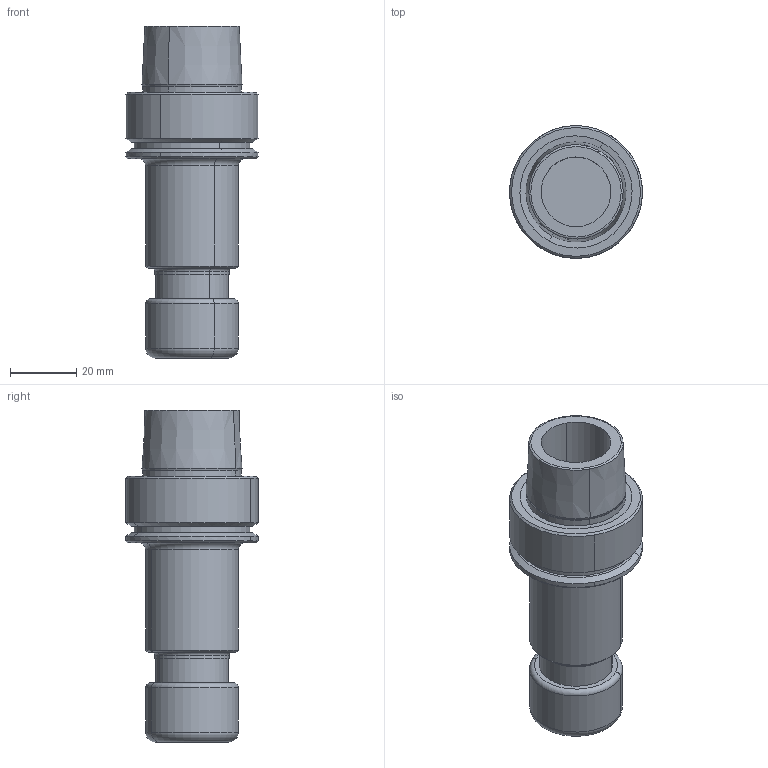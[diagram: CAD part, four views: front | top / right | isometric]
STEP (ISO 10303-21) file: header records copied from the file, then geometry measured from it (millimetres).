
FILE_DESCRIPTION(('CATIA V5 STEP','CAx-IF Rec.Pracs.--- Model Styling and Organization---1.2---2011-12-15'),'2;1');
FILE_NAME('\\nas01\drv1\utils\eitdev\rte\eit\transmagicconvert\db\out\635934498697204579\4503352-D-B.stp','2016-03-13T05:11:23+00:00',('none'),('none'),'CATIA Version 5 Release 21 SP 5 (IN-10)','CATIA V5 STEP AP214','none');
FILE_SCHEMA(('AUTOMOTIVE_DESIGN { 1 0 10303 214 1 1 1 1 }'));
Length unit declared in the file: millimetre
Products named in the file (1): HSK E 40 ER16X 80
Bounding box: 39.99 x 40 x 100 mm (x, y, z)
Volume: 57194.3 mm3; surface area: 15837.8 mm2
Topology: 1 solids, 1 shells, 68 faces, 142 edges, 83 vertices
Faces by surface type: cylinder 24, cone 20, torus 14, plane 10
Entity records: 1602 total; most frequent: ORIENTED_EDGE 280, CARTESIAN_POINT 265, DIRECTION 222, EDGE_CURVE 140, AXIS2_PLACEMENT_3D 138, CIRCLE 96, VERTEX_POINT 83, EDGE_LOOP 77
